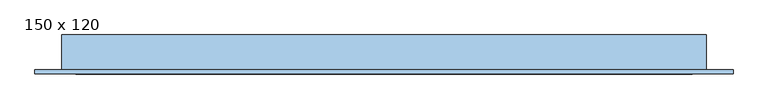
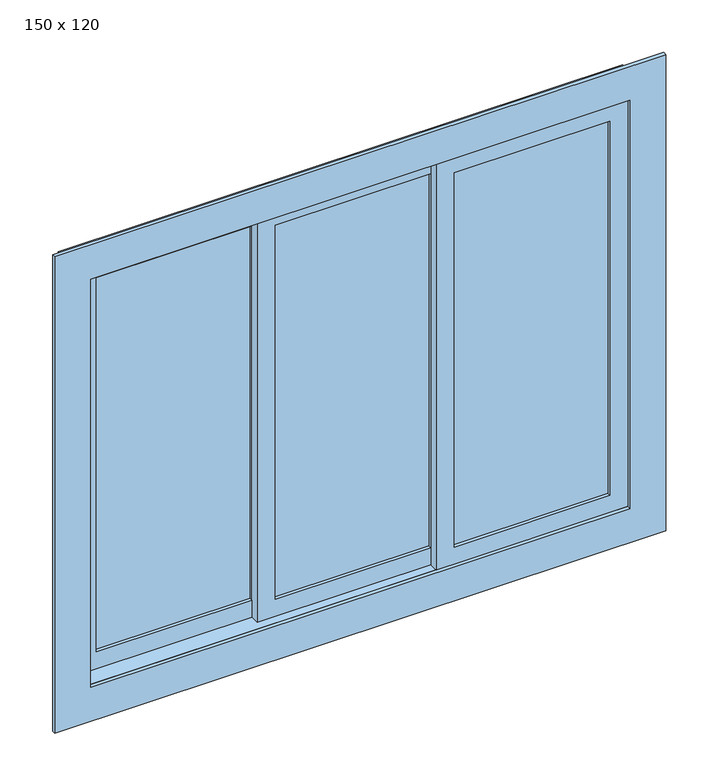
"""IFC4 building model written with IfcOpenShell, lengths in millimetres: window geometry, JANELA COM ESQUADRIA DE CORRER - 3 FOLHAS : 150 x 120."""

from ifc_helpers import new_model, si_unit, frame, origin, place, context, project, spatial, polyline, outline, extrude, source, transform, mapped, element, save


def window_150_x_120_26587e5e(model_context):
    return source(origin(), model_context, "Body", "SweptSolid", [
        extrude(outline(polyline([(341.0702176, -35.3758395), (341.0702176, -41.3758395), (-92.2631157, -41.3758395), (-92.2631157, -35.3758395), (341.0702176, -35.3758395)])), frame((0.0, 0.0, 1050.0), z_axis=(0.0, 0.0, 1.0), x_axis=(1.0, 0.0, 0.0)), (0.0, 0.0, 1.0), 1100.0),
        extrude(outline(polyline([(2200.0, 391.0702176), (2200.0, -142.2631157), (1000.0, -142.2631157), (1000.0, 391.0702176), (2200.0, 391.0702176)]), holes=[polyline([(2150.0, 341.0702176), (1050.0, 341.0702176), (1050.0, -92.2631157), (2150.0, -92.2631157), (2150.0, 341.0702176)])]), frame((0.0, -50.8758395, 0.0), z_axis=(0.0, 1.0, 0.0), x_axis=(0.0, 0.0, 1.0)), (0.0, 0.0, 1.0), 25.0),
        extrude(outline(polyline([(-575.5964491, -10.3758395), (-142.2631157, -10.3758395), (-142.2631157, -16.3758395), (-575.5964491, -16.3758395), (-575.5964491, -10.3758395)])), frame((0.0, 0.0, 1050.0), z_axis=(0.0, 0.0, 1.0), x_axis=(1.0, 0.0, 0.0)), (0.0, 0.0, 1.0), 1100.0),
        extrude(outline(polyline([(2200.0, -625.5964491), (1000.0, -625.5964491), (1000.0, -92.2631157), (2200.0, -92.2631157), (2200.0, -625.5964491)]), holes=[polyline([(2150.0, -575.5964491), (2150.0, -142.2631157), (1050.0, -142.2631157), (1050.0, -575.5964491), (2150.0, -575.5964491)])]), frame((0.0, -25.8758395, 0.0), z_axis=(0.0, 1.0, 0.0), x_axis=(0.0, 0.0, 1.0)), (0.0, 0.0, 1.0), 25.0),
        extrude(outline(polyline([(824.4035509, -60.3758395), (824.4035509, -66.3758395), (391.0702176, -66.3758395), (391.0702176, -60.3758395), (824.4035509, -60.3758395)])), frame((0.0, 0.0, 1050.0), z_axis=(0.0, 0.0, 1.0), x_axis=(1.0, 0.0, 0.0)), (0.0, 0.0, 1.0), 1100.0),
        extrude(outline(polyline([(2200.0, 874.4035509), (2200.0, 341.0702176), (1000.0, 341.0702176), (1000.0, 874.4035509), (2200.0, 874.4035509)]), holes=[polyline([(2150.0, 824.4035509), (1050.0, 824.4035509), (1050.0, 391.0702176), (2150.0, 391.0702176), (2150.0, 824.4035509)])]), frame((0.0, -75.8758395, 0.0), z_axis=(0.0, 1.0, 0.0), x_axis=(0.0, 0.0, 1.0)), (0.0, 0.0, 1.0), 25.0),
        extrude(outline(polyline([(900.0, -725.5964491), (900.0, 974.4035509), (2300.0, 974.4035509), (2300.0, -725.5964491), (900.0, -725.5964491)]), holes=[polyline([(2200.0, -625.5964491), (2200.0, 874.4035509), (1000.0, 874.4035509), (1000.0, -625.5964491), (2200.0, -625.5964491)])]), frame((0.0, -85.8758395, 0.0), z_axis=(0.0, 1.0, 0.0), x_axis=(0.0, 0.0, 1.0)), (0.0, 0.0, 1.0), 10.0),
        extrude(outline(polyline([(-660.5964491, 9.1241605), (-625.5964491, 9.1241605), (-625.5964491, -75.8758395), (-660.5964491, -75.8758395), (-660.5964491, 9.1241605)])), frame((0.0, 0.0, 1000.0), z_axis=(0.0, 0.0, 1.0), x_axis=(1.0, 0.0, 0.0)), (0.0, 0.0, 1.0), 1200.0),
        extrude(outline(polyline([(874.4035509, 9.1241605), (909.4035509, 9.1241605), (909.4035509, -75.8758395), (874.4035509, -75.8758395), (874.4035509, 9.1241605)])), frame((0.0, 0.0, 1000.0), z_axis=(0.0, 0.0, 1.0), x_axis=(1.0, 0.0, 0.0)), (0.0, 0.0, 1.0), 1200.0),
        extrude(outline(polyline([(-660.5964491, 9.1241605), (909.4035509, 9.1241605), (909.4035509, -75.8758395), (-660.5964491, -75.8758395), (-660.5964491, 9.1241605)])), frame((0.0, 0.0, 965.0), z_axis=(0.0, 0.0, 1.0), x_axis=(1.0, 0.0, 0.0)), (0.0, 0.0, 1.0), 35.0),
        extrude(outline(polyline([(-660.5964491, 9.1241605), (909.4035509, 9.1241605), (909.4035509, -75.8758395), (-660.5964491, -75.8758395), (-660.5964491, 9.1241605)])), frame((0.0, 0.0, 2200.0), z_axis=(0.0, 0.0, 1.0), x_axis=(1.0, 0.0, 0.0)), (0.0, 0.0, 1.0), 35.0),
    ])


if __name__ == "__main__":
    model = new_model("IFC4")
    model_context = context("Model", 3, world=origin())
    ifc_project = project(units=[si_unit("LENGTHUNIT", "METRE", prefix="MILLI")], contexts=[model_context])
    site = spatial("IfcSite", under=ifc_project)
    building = spatial("IfcBuilding", under=site)
    placement = place(None, origin())
    window_150_x_120_shape = window_150_x_120_26587e5e(model_context)
    element("IfcWindow", 1, ObjectType="JANELA COM ESQUADRIA DE CORRER - 3 FOLHAS : 150 x 120", at=placement, inside=building, context=model_context, shape_type="MappedRepresentation", body=[
        mapped(window_150_x_120_shape, transform((0.0, 0.0, 0.0), x_axis=(1.0, 0.0, 0.0), y_axis=(0.0, 1.0, 0.0), z_axis=(0.0, 0.0, 1.0))),
    ])
    save(model, "model.ifc")
